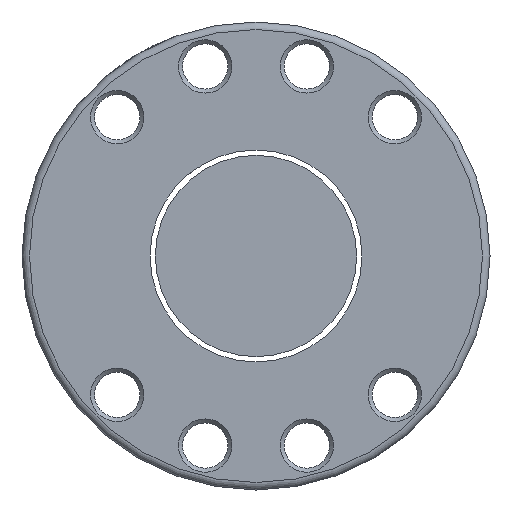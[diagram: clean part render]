
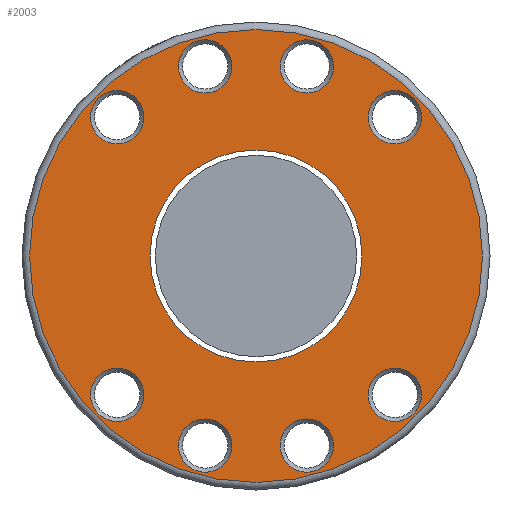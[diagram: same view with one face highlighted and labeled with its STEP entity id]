
A CAD part, left-side view. The second image highlights one B-rep face of the part: STEP entity #2003.
In plain terms, the highlighted planar face has unit normal (-1, 0, 0).
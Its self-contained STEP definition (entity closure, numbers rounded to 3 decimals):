
#26 = VERTEX_POINT ( 'NONE', #445 ) ;
#44 = VERTEX_POINT ( 'NONE', #932 ) ;
#85 = AXIS2_PLACEMENT_3D ( 'NONE', #2723, #2061, #2324 ) ;
#114 = AXIS2_PLACEMENT_3D ( 'NONE', #2124, #141, #127 ) ;
#122 = EDGE_LOOP ( 'NONE', ( #2614 ) ) ;
#127 = DIRECTION ( 'NONE',  ( 0., 0., 1. ) ) ;
#140 = AXIS2_PLACEMENT_3D ( 'NONE', #722, #957, #2489 ) ;
#141 = DIRECTION ( 'NONE',  ( 1., 0., 0. ) ) ;
#182 = EDGE_CURVE ( 'NONE', #2817, #2817, #1726, .T. ) ;
#203 = EDGE_LOOP ( 'NONE', ( #471 ) ) ;
#254 = AXIS2_PLACEMENT_3D ( 'NONE', #1761, #274, #666 ) ;
#274 = DIRECTION ( 'NONE',  ( -1., 0., 0. ) ) ;
#418 = DIRECTION ( 'NONE',  ( 0., 0., 1. ) ) ;
#445 = CARTESIAN_POINT ( 'NONE',  ( -60., -27.577, 32.877 ) ) ;
#457 = EDGE_CURVE ( 'NONE', #839, #839, #999, .T. ) ;
#471 = ORIENTED_EDGE ( 'NONE', *, *, #1332, .T. ) ;
#493 = ORIENTED_EDGE ( 'NONE', *, *, #2440, .T. ) ;
#495 = FACE_BOUND ( 'NONE', #1897, .T. ) ;
#497 = CARTESIAN_POINT ( 'NONE',  ( -60., -27.577, -22.277 ) ) ;
#512 = AXIS2_PLACEMENT_3D ( 'NONE', #1358, #927, #2218 ) ;
#648 = DIRECTION ( 'NONE',  ( 0., 0., 1. ) ) ;
#666 = DIRECTION ( 'NONE',  ( 0., 0., 1. ) ) ;
#678 = EDGE_LOOP ( 'NONE', ( #1971 ) ) ;
#681 = CARTESIAN_POINT ( 'NONE',  ( -60., 10.094, -32.371 ) ) ;
#692 = FACE_BOUND ( 'NONE', #2745, .T. ) ;
#722 = CARTESIAN_POINT ( 'NONE',  ( -60., 0., 0. ) ) ;
#730 = CARTESIAN_POINT ( 'NONE',  ( -60., -27.577, -27.577 ) ) ;
#811 = EDGE_CURVE ( 'NONE', #2660, #2660, #2236, .T. ) ;
#839 = VERTEX_POINT ( 'NONE', #1924 ) ;
#884 = FACE_BOUND ( 'NONE', #1212, .T. ) ;
#897 = EDGE_LOOP ( 'NONE', ( #1182 ) ) ;
#898 = FACE_BOUND ( 'NONE', #2780, .T. ) ;
#899 = CARTESIAN_POINT ( 'NONE',  ( -60., 27.577, -22.277 ) ) ;
#912 = FACE_OUTER_BOUND ( 'NONE', #203, .T. ) ;
#927 = DIRECTION ( 'NONE',  ( 1., 0., 0. ) ) ;
#928 = ORIENTED_EDGE ( 'NONE', *, *, #2570, .T. ) ;
#932 = CARTESIAN_POINT ( 'NONE',  ( -60., 27.577, 32.877 ) ) ;
#957 = DIRECTION ( 'NONE',  ( -1., 0., 0. ) ) ;
#999 = CIRCLE ( 'NONE', #1368, 21.05 ) ;
#1037 = EDGE_CURVE ( 'NONE', #2184, #2184, #2157, .T. ) ;
#1104 = AXIS2_PLACEMENT_3D ( 'NONE', #730, #2496, #2170 ) ;
#1130 = EDGE_CURVE ( 'NONE', #1763, #1763, #2759, .T. ) ;
#1182 = ORIENTED_EDGE ( 'NONE', *, *, #182, .T. ) ;
#1212 = EDGE_LOOP ( 'NONE', ( #1290 ) ) ;
#1246 = DIRECTION ( 'NONE',  ( 1., 0., 0. ) ) ;
#1290 = ORIENTED_EDGE ( 'NONE', *, *, #457, .T. ) ;
#1330 = CARTESIAN_POINT ( 'NONE',  ( -60., -10.094, -37.671 ) ) ;
#1331 = FACE_BOUND ( 'NONE', #678, .T. ) ;
#1332 = EDGE_CURVE ( 'NONE', #1597, #1597, #2268, .T. ) ;
#1358 = CARTESIAN_POINT ( 'NONE',  ( -60., -10.094, 37.671 ) ) ;
#1363 = VERTEX_POINT ( 'NONE', #1980 ) ;
#1368 = AXIS2_PLACEMENT_3D ( 'NONE', #2002, #1756, #1547 ) ;
#1381 = FACE_BOUND ( 'NONE', #2315, .T. ) ;
#1399 = CIRCLE ( 'NONE', #512, 5.3 ) ;
#1421 = EDGE_CURVE ( 'NONE', #1363, #1363, #1399, .T. ) ;
#1424 = AXIS2_PLACEMENT_3D ( 'NONE', #2842, #2179, #648 ) ;
#1461 = DIRECTION ( 'NONE',  ( 1., 0., 0. ) ) ;
#1464 = CARTESIAN_POINT ( 'NONE',  ( -60., -10.094, -32.371 ) ) ;
#1467 = ORIENTED_EDGE ( 'NONE', *, *, #811, .T. ) ;
#1492 = CARTESIAN_POINT ( 'NONE',  ( -60., -27.577, 27.577 ) ) ;
#1516 = AXIS2_PLACEMENT_3D ( 'NONE', #2558, #1461, #1920 ) ;
#1547 = DIRECTION ( 'NONE',  ( 0., 0., -1. ) ) ;
#1566 = CARTESIAN_POINT ( 'NONE',  ( -60., 0., 45. ) ) ;
#1597 = VERTEX_POINT ( 'NONE', #1566 ) ;
#1628 = AXIS2_PLACEMENT_3D ( 'NONE', #1492, #2816, #418 ) ;
#1642 = EDGE_CURVE ( 'NONE', #26, #26, #1985, .T. ) ;
#1689 = DIRECTION ( 'NONE',  ( 0., 0., 1. ) ) ;
#1726 = CIRCLE ( 'NONE', #2366, 5.3 ) ;
#1756 = DIRECTION ( 'NONE',  ( 1., 0., 0. ) ) ;
#1761 = CARTESIAN_POINT ( 'NONE',  ( -60., 46.5, 0. ) ) ;
#1763 = VERTEX_POINT ( 'NONE', #681 ) ;
#1788 = FACE_BOUND ( 'NONE', #2206, .T. ) ;
#1807 = VERTEX_POINT ( 'NONE', #497 ) ;
#1897 = EDGE_LOOP ( 'NONE', ( #493 ) ) ;
#1920 = DIRECTION ( 'NONE',  ( 0., 0., 1. ) ) ;
#1924 = CARTESIAN_POINT ( 'NONE',  ( -60., 0., -21.05 ) ) ;
#1971 = ORIENTED_EDGE ( 'NONE', *, *, #1037, .T. ) ;
#1980 = CARTESIAN_POINT ( 'NONE',  ( -60., -10.094, 42.971 ) ) ;
#1985 = CIRCLE ( 'NONE', #1628, 5.3 ) ;
#2002 = CARTESIAN_POINT ( 'NONE',  ( -60., 0., 0. ) ) ;
#2003 = ADVANCED_FACE ( 'NONE', ( #912, #1331, #495, #1381, #692, #2425, #1788, #2455, #898, #884 ), #2256, .T. ) ;
#2061 = DIRECTION ( 'NONE',  ( 1., 0., 0. ) ) ;
#2103 = ORIENTED_EDGE ( 'NONE', *, *, #1421, .T. ) ;
#2116 = CIRCLE ( 'NONE', #1104, 5.3 ) ;
#2124 = CARTESIAN_POINT ( 'NONE',  ( -60., 27.577, -27.577 ) ) ;
#2157 = CIRCLE ( 'NONE', #1424, 5.3 ) ;
#2170 = DIRECTION ( 'NONE',  ( 0., 0., 1. ) ) ;
#2179 = DIRECTION ( 'NONE',  ( 1., 0., 0. ) ) ;
#2184 = VERTEX_POINT ( 'NONE', #2847 ) ;
#2206 = EDGE_LOOP ( 'NONE', ( #928 ) ) ;
#2218 = DIRECTION ( 'NONE',  ( 0., 0., 1. ) ) ;
#2236 = CIRCLE ( 'NONE', #114, 5.3 ) ;
#2256 = PLANE ( 'NONE',  #254 ) ;
#2268 = CIRCLE ( 'NONE', #140, 45. ) ;
#2315 = EDGE_LOOP ( 'NONE', ( #1467 ) ) ;
#2324 = DIRECTION ( 'NONE',  ( 0., 0., 1. ) ) ;
#2366 = AXIS2_PLACEMENT_3D ( 'NONE', #1330, #1246, #1689 ) ;
#2425 = FACE_BOUND ( 'NONE', #897, .T. ) ;
#2440 = EDGE_CURVE ( 'NONE', #44, #44, #2720, .T. ) ;
#2455 = FACE_BOUND ( 'NONE', #122, .T. ) ;
#2489 = DIRECTION ( 'NONE',  ( 0., 0., 1. ) ) ;
#2496 = DIRECTION ( 'NONE',  ( 1., 0., 0. ) ) ;
#2504 = ORIENTED_EDGE ( 'NONE', *, *, #1130, .T. ) ;
#2558 = CARTESIAN_POINT ( 'NONE',  ( -60., 10.094, -37.671 ) ) ;
#2570 = EDGE_CURVE ( 'NONE', #1807, #1807, #2116, .T. ) ;
#2614 = ORIENTED_EDGE ( 'NONE', *, *, #1642, .T. ) ;
#2660 = VERTEX_POINT ( 'NONE', #899 ) ;
#2720 = CIRCLE ( 'NONE', #85, 5.3 ) ;
#2723 = CARTESIAN_POINT ( 'NONE',  ( -60., 27.577, 27.577 ) ) ;
#2745 = EDGE_LOOP ( 'NONE', ( #2504 ) ) ;
#2759 = CIRCLE ( 'NONE', #1516, 5.3 ) ;
#2780 = EDGE_LOOP ( 'NONE', ( #2103 ) ) ;
#2816 = DIRECTION ( 'NONE',  ( 1., 0., 0. ) ) ;
#2817 = VERTEX_POINT ( 'NONE', #1464 ) ;
#2842 = CARTESIAN_POINT ( 'NONE',  ( -60., 10.094, 37.671 ) ) ;
#2847 = CARTESIAN_POINT ( 'NONE',  ( -60., 10.094, 42.971 ) ) ;
